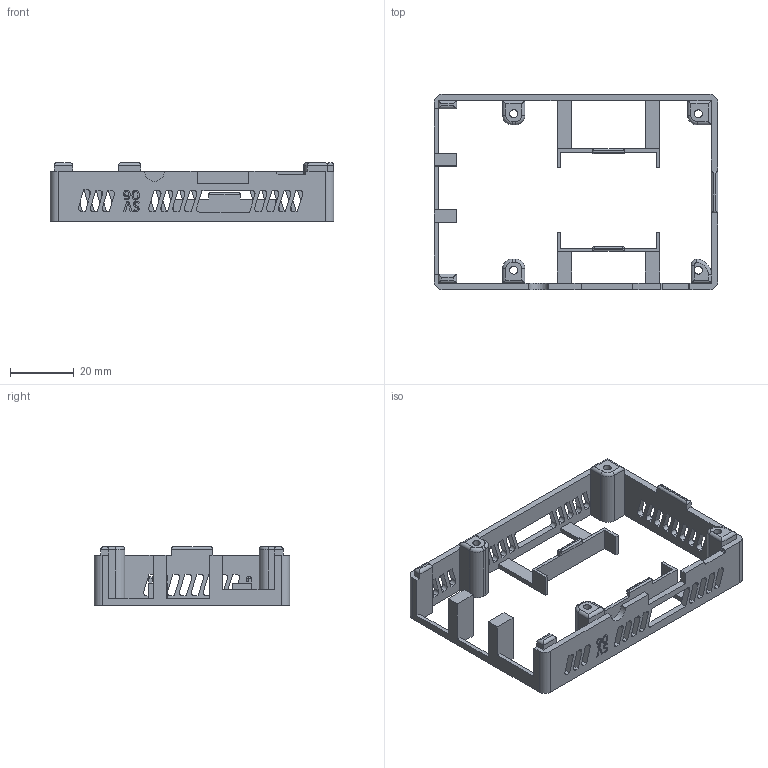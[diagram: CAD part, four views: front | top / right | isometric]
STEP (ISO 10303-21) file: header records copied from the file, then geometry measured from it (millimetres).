
FILE_DESCRIPTION(/* description */ ('STEP AP242','CAx-IF Rec.Pracs.---Representation and Presentation of Product Manufacturing Information (PMI)---4.0---2014-10-13','CAx-IF Rec.Pracs.---3D Tessellated Geometry---0.4---2014-09-14','2;1'),/* implementation_level */ '2;1');
FILE_NAME(/* name */ '65281c4b3e077a3ef37d31b7',/* time_stamp */ '2023-10-12T16:18:20Z',/* author */ (''),/* organization */ (''),/* preprocessor_version */ 'ST-DEVELOPER v19.4',/* originating_system */ ' ',/* authorisation */ ' ');
FILE_SCHEMA (('AP242_MANAGED_MODEL_BASED_3D_ENGINEERING_MIM_LF { 1 0 10303 442 1 1 4 }'));
Length unit declared in the file: metre
Products named in the file (1): scaffold
Bounding box: 89.03 x 61.33 x 18.5 mm (x, y, z)
Volume: 11753 mm3; surface area: 13332.3 mm2
Topology: 1 solids, 1 shells, 666 faces, 1883 edges, 1232 vertices
Faces by surface type: plane 316, bspline 220, cylinder 119, torus 7, sphere 4
Full cylindrical faces by diameter (mm): 2.486 x1, 2.491 x1, 2.493 x1, 2.495 x1
Entity records: 22249 total; most frequent: CARTESIAN_POINT 6204, ORIENTED_EDGE 3750, DIRECTION 2546, EDGE_CURVE 1875, VERTEX_POINT 1232, LINE 1212, VECTOR 1212, EDGE_LOOP 765
